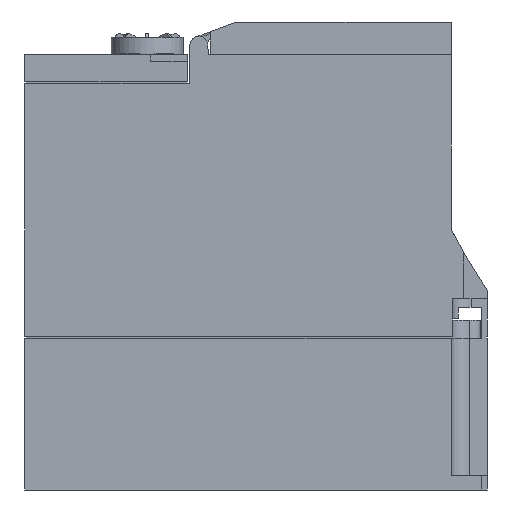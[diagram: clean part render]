
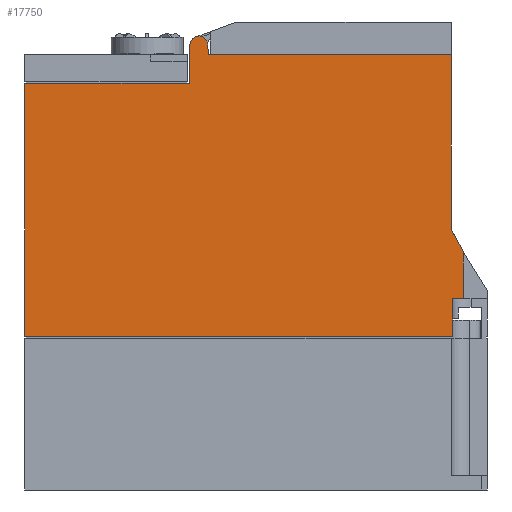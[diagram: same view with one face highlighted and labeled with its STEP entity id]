
A CAD part, left-side view. The second image highlights one B-rep face of the part: STEP entity #17750.
In plain terms, the highlighted planar face has unit normal (-1, 0, 0).
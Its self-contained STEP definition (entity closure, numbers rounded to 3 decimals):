
#2213=DIRECTION('',(0.,-1.,0.));
#2214=VECTOR('',#2213,118.5);
#2215=CARTESIAN_POINT('',(-34.,128.,0.5));
#2216=LINE('',#2215,#2214);
#3682=DIRECTION('',(0.,0.,1.));
#3683=VECTOR('',#3682,70.);
#3684=CARTESIAN_POINT('',(-34.,128.,0.5));
#3685=LINE('',#3684,#3683);
#3686=DIRECTION('',(0.,-0.017,1.));
#3687=VECTOR('',#3686,10.545);
#3688=CARTESIAN_POINT('',(-34.,82.484,70.5));
#3689=LINE('',#3688,#3687);
#3690=CARTESIAN_POINT('',(-34.,79.8,81.));
#3691=DIRECTION('',(1.,0.,0.));
#3692=DIRECTION('',(0.,1.,0.017));
#3693=AXIS2_PLACEMENT_3D('',#3690,#3691,#3692);
#3695=DIRECTION('',(0.,-0.017,-1.));
#3696=VECTOR('',#3695,2.544);
#3697=CARTESIAN_POINT('',(-34.,77.3,81.044));
#3698=LINE('',#3697,#3696);
#3699=DIRECTION('',(0.,0.,-1.));
#3700=VECTOR('',#3699,48.4);
#3701=CARTESIAN_POINT('',(-34.,10.,78.5));
#3702=LINE('',#3701,#3700);
#3703=DIRECTION('',(0.,-0.48,-0.877));
#3704=VECTOR('',#3703,7.078);
#3705=CARTESIAN_POINT('',(-34.,10.,30.1));
#3706=LINE('',#3705,#3704);
#3707=DIRECTION('',(0.,0.,1.));
#3708=VECTOR('',#3707,10.5);
#3709=CARTESIAN_POINT('',(-34.,9.5,0.5));
#3710=LINE('',#3709,#3708);
#3743=DIRECTION('',(0.,-1.,0.));
#3744=VECTOR('',#3743,45.516);
#3745=CARTESIAN_POINT('',(-34.,128.,70.5));
#3746=LINE('',#3745,#3744);
#7717=DIRECTION('',(0.,-1.,0.));
#7718=VECTOR('',#7717,67.256);
#7719=CARTESIAN_POINT('',(-34.,77.256,78.5));
#7720=LINE('',#7719,#7718);
#7853=DIRECTION('',(0.,0.,-1.));
#7854=VECTOR('',#7853,12.892);
#7855=CARTESIAN_POINT('',(-34.,6.6,23.892));
#7856=LINE('',#7855,#7854);
#7893=DIRECTION('',(0.,-1.,0.));
#7894=VECTOR('',#7893,2.9);
#7895=CARTESIAN_POINT('',(-34.,9.5,11.));
#7896=LINE('',#7895,#7894);
#9078=CARTESIAN_POINT('',(-34.,128.,70.5));
#9079=VERTEX_POINT('',#9078);
#9082=CARTESIAN_POINT('',(-34.,10.,78.5));
#9084=VERTEX_POINT('',#9082);
#9090=CARTESIAN_POINT('',(-34.,82.3,81.044));
#9091=CARTESIAN_POINT('',(-34.,77.3,81.044));
#9092=VERTEX_POINT('',#9090);
#9093=VERTEX_POINT('',#9091);
#9098=CARTESIAN_POINT('',(-34.,77.256,78.5));
#9099=VERTEX_POINT('',#9098);
#9307=CARTESIAN_POINT('',(-34.,128.,0.5));
#9309=VERTEX_POINT('',#9307);
#9378=CARTESIAN_POINT('',(-34.,82.484,70.5));
#9379=VERTEX_POINT('',#9378);
#9512=CARTESIAN_POINT('',(-34.,6.6,11.));
#9514=VERTEX_POINT('',#9512);
#9520=CARTESIAN_POINT('',(-34.,9.5,11.));
#9521=VERTEX_POINT('',#9520);
#9524=CARTESIAN_POINT('',(-34.,10.,30.1));
#9525=CARTESIAN_POINT('',(-34.,6.6,23.892));
#9526=VERTEX_POINT('',#9524);
#9527=VERTEX_POINT('',#9525);
#9576=CARTESIAN_POINT('',(-34.,9.5,0.5));
#9577=VERTEX_POINT('',#9576);
#17722=CARTESIAN_POINT('',(-34.,128.,0.));
#17723=DIRECTION('',(-1.,0.,0.));
#17724=DIRECTION('',(0.,-1.,0.));
#17725=AXIS2_PLACEMENT_3D('',#17722,#17723,#17724);
#17726=PLANE('',#17725);
#17727=ORIENTED_EDGE('',*,*,#15382,.F.);
#17729=ORIENTED_EDGE('',*,*,#17728,.T.);
#17731=ORIENTED_EDGE('',*,*,#17730,.T.);
#17733=ORIENTED_EDGE('',*,*,#17732,.T.);
#17735=ORIENTED_EDGE('',*,*,#17734,.T.);
#17737=ORIENTED_EDGE('',*,*,#17736,.T.);
#17739=ORIENTED_EDGE('',*,*,#17738,.T.);
#17741=ORIENTED_EDGE('',*,*,#17740,.T.);
#17742=ORIENTED_EDGE('',*,*,#15498,.T.);
#17744=ORIENTED_EDGE('',*,*,#17743,.T.);
#17746=ORIENTED_EDGE('',*,*,#17745,.F.);
#17747=ORIENTED_EDGE('',*,*,#17702,.F.);
#17748=EDGE_LOOP('',(#17727,#17729,#17731,#17733,#17735,#17737,#17739,#17741,
#17742,#17744,#17746,#17747));
#17749=FACE_OUTER_BOUND('',#17748,.F.);
#17750=ADVANCED_FACE('',(#17749),#17726,.T.);
#3694=CIRCLE('',#3693,2.5);
#15382=EDGE_CURVE('',#9309,#9577,#2216,.T.);
#15498=EDGE_CURVE('',#9526,#9527,#3706,.T.);
#17702=EDGE_CURVE('',#9577,#9521,#3710,.T.);
#17728=EDGE_CURVE('',#9309,#9079,#3685,.T.);
#17730=EDGE_CURVE('',#9079,#9379,#3746,.T.);
#17732=EDGE_CURVE('',#9379,#9092,#3689,.T.);
#17734=EDGE_CURVE('',#9092,#9093,#3694,.T.);
#17736=EDGE_CURVE('',#9093,#9099,#3698,.T.);
#17738=EDGE_CURVE('',#9099,#9084,#7720,.T.);
#17740=EDGE_CURVE('',#9084,#9526,#3702,.T.);
#17743=EDGE_CURVE('',#9527,#9514,#7856,.T.);
#17745=EDGE_CURVE('',#9521,#9514,#7896,.T.);
